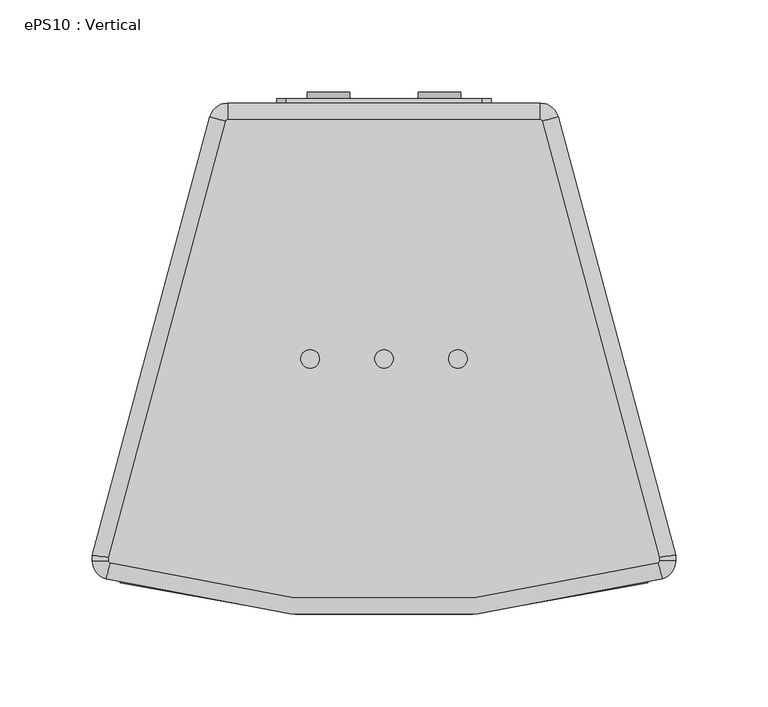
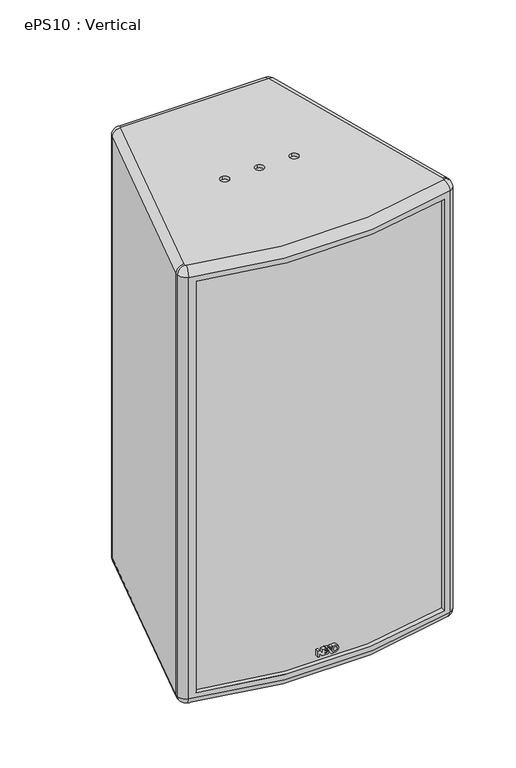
"""IFC4 building model written with IfcOpenShell, lengths in millimetres: proxy geometry, ePS10 : Vertical."""

from ifc_helpers import new_model, si_unit, point, frame, frame_2d, origin, place, context, project, spatial, polyline, circle_curve, ellipse_curve, trimmed, segment, composite_curve, outline, extrude, source, transform, mapped, element, save
from ifc_brep_helpers import plane_surface, cylinder_surface, revolved_surface, advanced_brep


def eps10_vertical_34d72fa2(model_context):
    return source(origin(), model_context, "Body", "SolidModel", [
        extrude(outline(polyline([(-236.0590531, -11.9363528), (-243.3388202, -11.9363528), (-243.3388202, -10.0439855), (-239.1734899, -10.0439855), (-243.3388202, -7.2688886), (-243.3388202, -0.4179789), (-241.463849, 0.9005934), (-239.8643156, -0.1627837), (-241.7361557, -1.5323263), (-241.7361557, -4.5659556), (-240.4818684, -4.5659556), (-240.4818684, -2.2828427), (-238.8791381, -2.2828427), (-238.8791381, -4.5659556), (-237.6626349, -4.5659556), (-237.6626349, -2.1588809), (-236.8626349, -2.1588809), (-236.0599046, -2.6925396), (-236.0599046, -6.9609157), (-240.5099607, -6.9706073), (-236.0590531, -9.9098734), (-236.0590531, -11.9363528)])), frame((0.0, -137.5, 0.0), z_axis=(0.0, 1.0, 0.0), x_axis=(0.0, 0.0, 1.0)), (0.0, 0.0, 1.0), 5.0),
        extrude(outline(polyline([(-236.0590531, -2.0512245), (-244.3, 3.4273947), (-244.3, 5.6205974), (-236.0590531, 0.1419782), (-236.0590531, -2.0512245)])), frame((0.0, -137.5, 0.0), z_axis=(0.0, 1.0, 0.0), x_axis=(0.0, 0.0, 1.0)), (0.0, 0.0, 1.0), 5.0),
        extrude(outline(polyline([(-236.0590531, 4.6894095), (-236.0590531, 2.362619), (-237.3270101, 1.6148247), (-238.957904, 2.6990504), (-236.0590531, 4.6894095)])), frame((0.0, -137.5, 0.0), z_axis=(0.0, 1.0, 0.0), x_axis=(0.0, 0.0, 1.0)), (0.0, 0.0, 1.0), 5.0),
        extrude(outline(composite_curve([segment(trimmed(circle_curve(frame_2d((-239.7298911, 8.0750207)), 3.9406238), [point((-239.7298911, 4.1343969))], [point((-239.7298911, 12.0156446))], False, "CARTESIAN"), True, "CONTINUOUS"), segment(trimmed(circle_curve(frame_2d((-239.7298911, 8.0750207)), 3.9406238), [point((-239.7298911, 12.0156446))], [point((-239.7298911, 4.1343969))], False, "CARTESIAN"), True, "CONTINUOUS")], self_intersect=False), holes=[composite_curve([segment(trimmed(circle_curve(frame_2d((-239.7298911, 8.0750207)), 2.0681078), [point((-239.7298911, 6.0069129))], [point((-239.7298911, 10.1431285))], True, "CARTESIAN"), True, "CONTINUOUS"), segment(trimmed(circle_curve(frame_2d((-239.7298911, 8.0750207)), 2.0681078), [point((-239.7298911, 10.1431285))], [point((-239.7298911, 6.0069129))], True, "CARTESIAN"), True, "CONTINUOUS")], self_intersect=False)]), frame((0.0, -137.5, 0.0), z_axis=(0.0, 1.0, 0.0), x_axis=(0.0, 0.0, 1.0)), (0.0, 0.0, 1.0), 5.0),
        extrude(outline(composite_curve([segment(trimmed(circle_curve(frame_2d((-228.0, 30.0)), 11.4515227), [point((-228.0, 41.4515227))], [point((-228.0, 18.5484773))], False, "CARTESIAN"), True, "CONTINUOUS"), segment(trimmed(circle_curve(frame_2d((-228.0, 30.0)), 11.4515227), [point((-228.0, 18.5484773))], [point((-228.0, 41.4515227))], False, "CARTESIAN"), True, "CONTINUOUS")], self_intersect=False), holes=[composite_curve([segment(trimmed(circle_curve(frame_2d((-228.0, 30.0)), 5.0), [point((-228.0, 35.0))], [point((-228.0, 25.0))], True, "CARTESIAN"), True, "CONTINUOUS"), segment(trimmed(circle_curve(frame_2d((-228.0, 30.0)), 5.0), [point((-228.0, 25.0))], [point((-228.0, 35.0))], True, "CARTESIAN"), True, "CONTINUOUS")], self_intersect=False)]), frame((0.0, 141.0947354, 0.0), z_axis=(0.0, 1.0, 0.0), x_axis=(0.0, 0.0, 1.0)), (0.0, 0.0, 1.0), 3.4052646),
        extrude(outline(composite_curve([segment(trimmed(circle_curve(frame_2d((-228.0, -30.0)), 11.4515227), [point((-228.0, -18.5484773))], [point((-228.0, -41.4515227))], False, "CARTESIAN"), True, "CONTINUOUS"), segment(trimmed(circle_curve(frame_2d((-228.0, -30.0)), 11.4515227), [point((-228.0, -41.4515227))], [point((-228.0, -18.5484773))], False, "CARTESIAN"), True, "CONTINUOUS")], self_intersect=False), holes=[composite_curve([segment(trimmed(circle_curve(frame_2d((-228.0, -30.0)), 5.0), [point((-228.0, -25.0))], [point((-228.0, -35.0))], True, "CARTESIAN"), True, "CONTINUOUS"), segment(trimmed(circle_curve(frame_2d((-228.0, -30.0)), 5.0), [point((-228.0, -35.0))], [point((-228.0, -25.0))], True, "CARTESIAN"), True, "CONTINUOUS")], self_intersect=False)]), frame((0.0, 141.0947354, 0.0), z_axis=(0.0, 1.0, 0.0), x_axis=(0.0, 0.0, 1.0)), (0.0, 0.0, 1.0), 3.4052646),
        extrude(outline(composite_curve([segment(polyline([(-209.0, 53.0), (-209.0, -53.0)]), True, "CONTINUOUS"), segment(trimmed(circle_curve(frame_2d((-214.0, -53.0)), 5.0), [point((-209.0, -53.0))], [point((-214.0, -58.0))], False, "CARTESIAN"), True, "CONTINUOUS"), segment(polyline([(-214.0, -58.0), (-242.0, -58.0)]), True, "CONTINUOUS"), segment(trimmed(circle_curve(frame_2d((-242.0, -53.0)), 5.0), [point((-242.0, -58.0))], [point((-247.0, -53.0))], False, "CARTESIAN"), True, "CONTINUOUS"), segment(polyline([(-247.0, -53.0), (-247.0, 53.0)]), True, "CONTINUOUS"), segment(trimmed(circle_curve(frame_2d((-242.0, 53.0)), 5.0), [point((-247.0, 53.0))], [point((-242.0, 58.0))], False, "CARTESIAN"), True, "CONTINUOUS"), segment(polyline([(-242.0, 58.0), (-214.0, 58.0)]), True, "CONTINUOUS"), segment(trimmed(circle_curve(frame_2d((-214.0, 53.0)), 5.0), [point((-214.0, 58.0))], [point((-209.0, 53.0))], False, "CARTESIAN"), True, "CONTINUOUS")], self_intersect=False)), frame((0.0, 138.5947354, 0.0), z_axis=(0.0, 1.0, 0.0), x_axis=(0.0, 0.0, 1.0)), (0.0, 0.0, 1.0), 2.5),
        advanced_brep(
        [(-84.6724223, 129.6030121, 265.5), (-85.6463427, 128.8556966, 265.5), (-149.0082766, -107.6142599, 265.5), (-149.0082766, -109.6140822, 265.5), (-148.2793024, -110.5829021, 265.5), (148.2793024, -110.5829021, 265.5), (149.0082766, -109.6140822, 265.5), (149.0082766, -107.6142599, 265.5), (85.6463427, 128.8556966, 265.5), (84.6724223, 129.6030121, 265.5), (0.0, -5.0, 265.5), (0.0, 5.0, 265.5), (-40.0, -5.0, 265.5), (-40.0, 5.0, 265.5), (40.0, -5.0, 265.5), (40.0, 5.0, 265.5), (84.6724223, 129.5947354, -265.5), (85.6383481, 128.8535545, -265.5), (149.0, -107.6153496, -265.5), (149.0, -109.6140822, -265.5), (148.2770097, -110.5749494, -265.5), (-148.2770097, -110.5749494, -265.5), (-149.0, -109.6140822, -265.5), (-149.0, -107.6153496, -265.5), (-85.6383481, 128.8535545, -265.5), (-84.6724223, 129.5947354, -265.5), (0.0, 5.0, -265.5), (0.0, -5.0, -265.5), (-40.0, 5.0, -265.5), (-40.0, -5.0, -265.5), (40.0, 5.0, -265.5), (40.0, -5.0, -265.5), (0.0, 5.0, 261.5), (0.0, -5.0, 261.5), (-40.0, 5.0, 261.5), (-40.0, -5.0, 261.5), (40.0, 5.0, 261.5), (40.0, -5.0, 261.5), (-143.0, -121.4005495, 250.5), (-143.0, -116.216713, 250.5), (143.0, -116.216713, 250.5), (143.0, -121.4005495, 250.5), (143.0, -121.4005495, -250.5), (143.0, -116.216713, -250.5), (-143.0, -116.216713, -250.5), (-143.0, -121.4005495, -250.5), (0.0, 5.0, -261.5), (0.0, -5.0, -261.5), (-40.0, 5.0, -261.5), (-40.0, -5.0, -261.5), (40.0, 5.0, -261.5), (40.0, -5.0, -261.5), (-29.3432823, 132.5, 0.0), (-40.6566026, 132.5, 0.0), (40.6567177, 132.5, 0.0), (29.3433974, 132.5, 0.0), (-29.3432823, 132.5, 70.0), (-40.6566026, 132.5, 70.0), (-40.6566026, 138.5947354, 0.0), (-29.3432823, 138.5947354, 0.0), (29.3433974, 138.5947354, 0.0), (40.6567177, 138.5947354, 0.0), (-84.6724223, 138.5947354, 256.5082766), (84.6724223, 138.5947354, 256.5082766), (84.6724223, 138.5947354, -256.5), (-84.6724223, 138.5947354, -256.5), (-40.6566026, 138.5947354, 70.0), (-29.3432823, 138.5947354, 70.0), (-94.3316806, 131.1829259, 256.5082766), (-94.3316806, 131.1829259, -256.5), (-158.0, -106.4304771, 256.5082766), (-158.0, -106.4304771, -256.5), (-158.0, -109.6140822, 256.5082766), (-158.0, -109.6140822, -256.5), (150.7700973, -119.2227534, 256.5082766), (-150.7700973, -119.2227534, 256.5082766), (-150.7700973, -119.2227534, -256.500006), (150.7700973, -119.2227534, -256.5), (158.0, -106.4304771, 256.5082766), (158.0, -109.6140822, 256.5082766), (158.0, -109.6140822, -256.5), (158.0, -106.4304771, -256.5), (94.3316806, 131.1829259, 256.5082766), (94.3316806, 131.1829259, -256.5)],
        [
            (0, 1, circle_curve(frame((-84.6724223, 128.5947354, 265.5), z_axis=(0.0, 0.0, 1.0), x_axis=(0.0, 1.0, 0.0)), 1.0082766)),
            (1, 2),
            (2, 3),
            (3, 4, circle_curve(frame((-148.0, -109.6140822, 265.5), z_axis=(0.0, 0.0, 1.0), x_axis=(-1.0, 0.0, 0.0)), 1.0082766)),
            (4, 5, circle_curve(frame((0.0, 403.7553714, 265.5), z_axis=(0.0, 0.0, 1.0), x_axis=(-0.2770097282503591, -0.9608671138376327, 0.0)), 535.2855417)),
            (5, 6, circle_curve(frame((148.0, -109.6140822, 265.5), z_axis=(0.0, 0.0, 1.0), x_axis=(0.2770097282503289, -0.9608671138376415, 0.0)), 1.0082766)),
            (6, 7),
            (7, 8),
            (8, 9, circle_curve(frame((84.6724223, 128.5947354, 265.5), z_axis=(0.0, 0.0, 1.0), x_axis=(0.9659258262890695, 0.2588190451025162, 0.0)), 1.0082766)),
            (9, 0),
            (10, 11, circle_curve(frame((0.0, 0.0, 265.5), z_axis=(0.0, 0.0, -1.0), x_axis=(0.0, -1.0, 0.0)), 5.0)),
            (11, 10, circle_curve(frame((0.0, 0.0, 265.5), z_axis=(0.0, 0.0, -1.0), x_axis=(0.0, -1.0, 0.0)), 5.0)),
            (12, 13, circle_curve(frame((-40.0, 0.0, 265.5), z_axis=(0.0, 0.0, -1.0), x_axis=(0.0, -1.0, 0.0)), 5.0)),
            (13, 12, circle_curve(frame((-40.0, 0.0, 265.5), z_axis=(0.0, 0.0, -1.0), x_axis=(0.0, -1.0, 0.0)), 5.0)),
            (14, 15, circle_curve(frame((40.0, 0.0, 265.5), z_axis=(0.0, 0.0, -1.0), x_axis=(0.0, -1.0, 0.0)), 5.0)),
            (15, 14, circle_curve(frame((40.0, 0.0, 265.5), z_axis=(0.0, 0.0, -1.0), x_axis=(0.0, -1.0, 0.0)), 5.0)),
            (16, 17, circle_curve(frame((84.6724223, 128.5947354, -265.5), z_axis=(0.0, 0.0, -1.0), x_axis=(0.0, 1.0, 0.0)), 1.0)),
            (17, 18),
            (18, 19),
            (19, 20, circle_curve(frame((148.0, -109.6140822, -265.5), z_axis=(0.0, 0.0, -1.0), x_axis=(1.0, 0.0, 0.0)), 1.0)),
            (20, 21, circle_curve(frame((0.0, 403.7553714, -265.5), z_axis=(0.0, 0.0, -1.0), x_axis=(0.27700972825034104, -0.9608671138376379, 0.0)), 535.277265)),
            (21, 22, circle_curve(frame((-148.0, -109.6140822, -265.5), z_axis=(0.0, 0.0, -1.0), x_axis=(-0.27700972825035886, -0.9608671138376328, 0.0)), 1.0)),
            (22, 23),
            (23, 24),
            (24, 25, circle_curve(frame((-84.6724223, 128.5947354, -265.5), z_axis=(0.0, 0.0, -1.0), x_axis=(-0.9659258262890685, 0.2588190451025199, 0.0)), 1.0)),
            (25, 16),
            (26, 27, circle_curve(frame((0.0, 0.0, -265.5), z_axis=(0.0, 0.0, 1.0), x_axis=(0.0, -1.0, 0.0)), 5.0)),
            (27, 26, circle_curve(frame((0.0, 0.0, -265.5), z_axis=(0.0, 0.0, 1.0), x_axis=(0.0, -1.0, 0.0)), 5.0)),
            (28, 29, circle_curve(frame((-40.0, 0.0, -265.5), z_axis=(0.0, 0.0, 1.0), x_axis=(0.0, -1.0, 0.0)), 5.0)),
            (29, 28, circle_curve(frame((-40.0, 0.0, -265.5), z_axis=(0.0, 0.0, 1.0), x_axis=(0.0, -1.0, 0.0)), 5.0)),
            (30, 31, circle_curve(frame((40.0, 0.0, -265.5), z_axis=(0.0, 0.0, 1.0), x_axis=(0.0, -1.0, 0.0)), 5.0)),
            (31, 30, circle_curve(frame((40.0, 0.0, -265.5), z_axis=(0.0, 0.0, 1.0), x_axis=(0.0, -1.0, 0.0)), 5.0)),
            (32, 33, circle_curve(frame((0.0, 0.0, 261.5), z_axis=(0.0, 0.0, 1.0), x_axis=(0.0, -1.0, 0.0)), 5.0)),
            (33, 32, circle_curve(frame((0.0, 0.0, 261.5), z_axis=(0.0, 0.0, 1.0), x_axis=(0.0, -1.0, 0.0)), 5.0)),
            (34, 35, circle_curve(frame((-40.0, 0.0, 261.5), z_axis=(0.0, 0.0, 1.0), x_axis=(0.0, -1.0, 0.0)), 5.0)),
            (35, 34, circle_curve(frame((-40.0, 0.0, 261.5), z_axis=(0.0, 0.0, 1.0), x_axis=(0.0, -1.0, 0.0)), 5.0)),
            (36, 37, circle_curve(frame((40.0, 0.0, 261.5), z_axis=(0.0, 0.0, 1.0), x_axis=(0.0, -1.0, 0.0)), 5.0)),
            (37, 36, circle_curve(frame((40.0, 0.0, 261.5), z_axis=(0.0, 0.0, 1.0), x_axis=(0.0, -1.0, 0.0)), 5.0)),
            (32, 11),
            (10, 33),
            (34, 13),
            (12, 35),
            (36, 15),
            (14, 37),
            (38, 39),
            (39, 40, circle_curve(frame((0.0, 403.7553714, 250.5), z_axis=(0.0, 0.0, 1.0), x_axis=(1.0, 0.0, 0.0)), 539.277265)),
            (40, 41),
            (41, 38, circle_curve(frame((0.0, 403.7553714, 250.5), z_axis=(0.0, 0.0, -1.0), x_axis=(1.0, 0.0, 0.0)), 544.277265)),
            (42, 43),
            (43, 44, circle_curve(frame((0.0, 403.7553714, -250.5), z_axis=(0.0, 0.0, -1.0), x_axis=(1.0, 0.0, 0.0)), 539.277265)),
            (44, 45),
            (45, 42, circle_curve(frame((0.0, 403.7553714, -250.5), z_axis=(0.0, 0.0, 1.0), x_axis=(1.0, 0.0, 0.0)), 544.277265)),
            (46, 47, circle_curve(frame((0.0, 0.0, -261.5), z_axis=(0.0, 0.0, -1.0), x_axis=(0.0, -1.0, 0.0)), 5.0)),
            (47, 46, circle_curve(frame((0.0, 0.0, -261.5), z_axis=(0.0, 0.0, -1.0), x_axis=(0.0, -1.0, 0.0)), 5.0)),
            (48, 49, circle_curve(frame((-40.0, 0.0, -261.5), z_axis=(0.0, 0.0, -1.0), x_axis=(0.0, -1.0, 0.0)), 5.0)),
            (49, 48, circle_curve(frame((-40.0, 0.0, -261.5), z_axis=(0.0, 0.0, -1.0), x_axis=(0.0, -1.0, 0.0)), 5.0)),
            (50, 51, circle_curve(frame((40.0, 0.0, -261.5), z_axis=(0.0, 0.0, -1.0), x_axis=(0.0, -1.0, 0.0)), 5.0)),
            (51, 50, circle_curve(frame((40.0, 0.0, -261.5), z_axis=(0.0, 0.0, -1.0), x_axis=(0.0, -1.0, 0.0)), 5.0)),
            (47, 27),
            (26, 46),
            (49, 29),
            (28, 48),
            (51, 31),
            (30, 50),
            (52, 53, circle_curve(frame((-34.9999424, 132.5, 0.0), z_axis=(0.0, 1.0, 0.0), x_axis=(-1.0, 0.0, 0.0)), 5.6566602)),
            (53, 52, circle_curve(frame((-34.9999424, 132.5, 0.0), z_axis=(0.0, 1.0, 0.0), x_axis=(-1.0, 0.0, 0.0)), 5.6566602)),
            (54, 55, circle_curve(frame((35.0000576, 132.5, 0.0), z_axis=(0.0, 1.0, 0.0), x_axis=(-1.0, 0.0, 0.0)), 5.6566602)),
            (55, 54, circle_curve(frame((35.0000576, 132.5, 0.0), z_axis=(0.0, 1.0, 0.0), x_axis=(-1.0, 0.0, 0.0)), 5.6566602)),
            (56, 57, circle_curve(frame((-34.9999424, 132.5, 70.0), z_axis=(0.0, 1.0, 0.0), x_axis=(-1.0, 0.0, 0.0)), 5.6566602)),
            (57, 56, circle_curve(frame((-34.9999424, 132.5, 70.0), z_axis=(0.0, 1.0, 0.0), x_axis=(-1.0, 0.0, 0.0)), 5.6566602)),
            (53, 58),
            (58, 59, circle_curve(frame((-34.9999424, 138.5947354, 0.0), z_axis=(0.0, 1.0, 0.0), x_axis=(-1.0, 0.0, 0.0)), 5.6566602)),
            (59, 52),
            (59, 58, circle_curve(frame((-34.9999424, 138.5947354, 0.0), z_axis=(0.0, 1.0, 0.0), x_axis=(-1.0, 0.0, 0.0)), 5.6566602)),
            (55, 60),
            (60, 61, circle_curve(frame((35.0000576, 138.5947354, 0.0), z_axis=(0.0, 1.0, 0.0), x_axis=(-1.0, 0.0, 0.0)), 5.6566602)),
            (61, 54),
            (61, 60, circle_curve(frame((35.0000576, 138.5947354, 0.0), z_axis=(0.0, 1.0, 0.0), x_axis=(-1.0, 0.0, 0.0)), 5.6566602)),
            (62, 63),
            (63, 64),
            (64, 65),
            (65, 62),
            (66, 67, circle_curve(frame((-34.9999424, 138.5947354, 70.0), z_axis=(0.0, -1.0, 0.0), x_axis=(-1.0, 0.0, 0.0)), 5.6566602)),
            (67, 66, circle_curve(frame((-34.9999424, 138.5947354, 70.0), z_axis=(0.0, -1.0, 0.0), x_axis=(-1.0, 0.0, 0.0)), 5.6566602)),
            (68, 62, circle_curve(frame((-84.6724223, 128.5947354, 256.5082766), z_axis=(0.0, 0.0, -1.0), x_axis=(1.0, 0.0, 0.0)), 10.0)),
            (65, 69, circle_curve(frame((-84.6724223, 128.5947354, -256.5), z_axis=(0.0, 0.0, 1.0), x_axis=(1.0, 0.0, 0.0)), 10.0)),
            (69, 68),
            (70, 68),
            (69, 71),
            (71, 70),
            (72, 70),
            (71, 73),
            (73, 72),
            (74, 75, circle_curve(frame((0.0, 403.7553714, 256.5082766), z_axis=(0.0, 0.0, -1.0), x_axis=(1.0, 0.0, 0.0)), 544.277265)),
            (75, 76),
            (76, 77, circle_curve(frame((0.0, 403.7553714, -256.5), z_axis=(0.0, 0.0, 1.0), x_axis=(1.0, 0.0, 0.0)), 544.277265)),
            (77, 74),
            (41, 42),
            (45, 38),
            (78, 79),
            (79, 80),
            (80, 81),
            (81, 78),
            (82, 78),
            (81, 83),
            (83, 82),
            (63, 82, circle_curve(frame((84.6724223, 128.5947354, 256.5082766), z_axis=(0.0, 0.0, -1.0), x_axis=(1.0, 0.0, 0.0)), 10.0)),
            (83, 64, circle_curve(frame((84.6724223, 128.5947354, -256.5), z_axis=(0.0, 0.0, 1.0), x_axis=(1.0, 0.0, 0.0)), 10.0)),
            (75, 72, circle_curve(frame((-148.0, -109.6140822, 256.5082766), z_axis=(0.0, 0.0, -1.0), x_axis=(1.0, 0.0, 0.0)), 10.0)),
            (73, 76, circle_curve(frame((-148.0, -109.6140822, -256.5), z_axis=(0.0, 0.0, 1.0), x_axis=(1.0, 0.0, 0.0)), 10.0)),
            (79, 74, circle_curve(frame((148.0, -109.6140822, 256.5082766), z_axis=(0.0, 0.0, -1.0), x_axis=(1.0, 0.0, 0.0)), 10.0)),
            (77, 80, circle_curve(frame((148.0, -109.6140822, -256.5), z_axis=(0.0, 0.0, 1.0), x_axis=(1.0, 0.0, 0.0)), 10.0)),
            (56, 67),
            (66, 57),
            (40, 43),
            (39, 44),
            (68, 1, circle_curve(frame((-85.6463427, 128.8556966, 256.5082766), z_axis=(0.2588190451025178, 0.9659258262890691, 0.0), x_axis=(0.9659258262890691, -0.2588190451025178, 0.0)), 8.9917234)),
            (0, 62, circle_curve(frame((-84.6724223, 129.6030121, 256.5082766), z_axis=(-1.0, 0.0, 0.0), x_axis=(0.0, -1.0, 0.0)), 8.9917234)),
            (70, 2, ellipse_curve(frame((-149.0082766, -107.6142599, 256.5082766), z_axis=(0.13052619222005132, 0.9914448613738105, 0.0), x_axis=(-0.9914448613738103, 0.13052619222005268, 0.0)), 9.0693126, 8.9917234)),
            (72, 3, circle_curve(frame((-149.0082766, -109.6140822, 256.5082766), z_axis=(0.0, 1.0, 0.0), x_axis=(1.0, 0.0, 0.0)), 8.9917234)),
            (75, 4, circle_curve(frame((-148.2793024, -110.5829021, 256.5082766), z_axis=(-0.9608671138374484, 0.2770097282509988, 0.0), x_axis=(0.2770097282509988, 0.9608671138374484, 0.0)), 8.9917234)),
            (74, 5, circle_curve(frame((148.2793024, -110.5829021, 256.5082766), z_axis=(-0.9608671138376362, -0.27700972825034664, 0.0), x_axis=(-0.27700972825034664, 0.9608671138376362, 0.0)), 8.9917234)),
            (79, 6, circle_curve(frame((149.0082766, -109.6140822, 256.5082766), z_axis=(0.0, -1.0, 0.0), x_axis=(-1.0, 0.0, 0.0)), 8.9917234)),
            (78, 7, ellipse_curve(frame((149.0082766, -107.6142599, 256.5082766), z_axis=(0.1305261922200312, -0.991444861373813, 0.0), x_axis=(0.991444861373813, 0.13052619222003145, 0.0)), 9.0693126, 8.9917234)),
            (82, 8, circle_curve(frame((85.6463427, 128.8556966, 256.5082766), z_axis=(0.2588190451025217, -0.9659258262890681, 0.0), x_axis=(-0.9659258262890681, -0.2588190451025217, 0.0)), 8.9917234)),
            (63, 9, circle_curve(frame((84.6724223, 129.6030121, 256.5082766), z_axis=(1.0, 0.0, 0.0), x_axis=(0.0, -1.0, 0.0)), 8.9917234)),
            (83, 17, circle_curve(frame((85.6383481, 128.8535545, -256.5), z_axis=(-0.2588190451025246, 0.9659258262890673, 0.0), x_axis=(-0.9659258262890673, -0.2588190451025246, 0.0)), 9.0)),
            (16, 64, circle_curve(frame((84.6724223, 129.5947354, -256.5), z_axis=(1.0, 0.0, 0.0), x_axis=(0.0, -1.0, 0.0)), 9.0)),
            (81, 18, ellipse_curve(frame((149.0, -107.6153496, -256.5), z_axis=(-0.1305261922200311, 0.991444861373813, 0.0), x_axis=(0.991444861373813, 0.1305261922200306, 0.0)), 9.0776606, 9.0)),
            (80, 19, circle_curve(frame((149.0, -109.6140822, -256.5), z_axis=(0.0, 1.0, 0.0), x_axis=(-1.0, 0.0, 0.0)), 9.0)),
            (77, 20, circle_curve(frame((148.2770097, -110.5749494, -256.5), z_axis=(0.9608671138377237, 0.27700972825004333, 0.0), x_axis=(-0.27700972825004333, 0.9608671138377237, 0.0)), 9.0)),
            (76, 21, circle_curve(frame((-148.2770097, -110.5749494, -256.5), z_axis=(0.9608671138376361, -0.277009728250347, 0.0), x_axis=(0.277009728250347, 0.9608671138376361, 0.0)), 9.0)),
            (73, 22, circle_curve(frame((-149.0, -109.6140822, -256.5), z_axis=(0.0, -1.0, 0.0), x_axis=(1.0, 0.0, 0.0)), 9.0)),
            (71, 23, ellipse_curve(frame((-149.0, -107.6153496, -256.5), z_axis=(-0.13052619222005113, -0.9914448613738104, 0.0), x_axis=(-0.9914448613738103, 0.13052619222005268, 0.0)), 9.0776606, 9.0)),
            (69, 24, circle_curve(frame((-85.6383481, 128.8535545, -256.5), z_axis=(-0.2588190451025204, -0.9659258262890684, 0.0), x_axis=(0.9659258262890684, -0.2588190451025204, 0.0)), 9.0)),
            (65, 25, circle_curve(frame((-84.6724223, 129.5947354, -256.5), z_axis=(-1.0000000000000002, 0.0, 0.0), x_axis=(0.0, -1.0000000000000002, 0.0)), 9.0)),
        ],
        [
            plane_surface(frame((-85.0560858, 138.5947354, 265.5), z_axis=(0.0, 0.0, 1.0), x_axis=(-1.0, 0.0, 0.0))),
            plane_surface(frame((-85.0560858, 138.5947354, -265.5), z_axis=(0.0, 0.0, -1.0), x_axis=(1.0, 0.0, 0.0))),
            plane_surface(frame((0.0, -5.0, 261.5), z_axis=(0.0, 0.0, 1.0), x_axis=(-1.0, 0.0, 0.0))),
            revolved_surface(polyline([(0.0, -5.0, 265.5), (0.0, -5.0, 261.5)]), (0.0, 0.0, 261.5), (0.0, 0.0, 1.0)),
            revolved_surface(polyline([(-40.0, -5.0, 265.5), (-40.0, -5.0, 261.5)]), (-40.0, 0.0, 265.5), (0.0, 0.0, 1.0)),
            revolved_surface(polyline([(40.0, -5.0, 265.5), (40.0, -5.0, 261.5)]), (40.0, 0.0, 265.5), (0.0, 0.0, 1.0)),
            plane_surface(frame((143.0, -186.7599178, 250.5), z_axis=(0.0, 0.0, -1.0), x_axis=(0.0, 1.0, 0.0))),
            plane_surface(frame((143.0, -186.7599178, -250.5), z_axis=(0.0, 0.0, 1.0), x_axis=(0.0, -1.0, 0.0))),
            plane_surface(frame((0.0, -5.0, -261.5), z_axis=(0.0, 0.0, -1.0), x_axis=(1.0, 0.0, 0.0))),
            revolved_surface(polyline([(0.0, -5.0, -261.5), (0.0, -5.0, -265.5)]), (0.0, 0.0, -269.5), (0.0, 0.0, 1.0)),
            revolved_surface(polyline([(-40.0, -5.0, -261.5), (-40.0, -5.0, -265.5)]), (-40.0, 0.0, -265.5), (0.0, 0.0, 1.0)),
            revolved_surface(polyline([(40.0, -5.0, -261.5), (40.0, -5.0, -265.5)]), (40.0, 0.0, -265.5), (0.0, 0.0, 1.0)),
            plane_surface(frame((-40.6566026, 132.5, 0.0), z_axis=(0.0, 1.0, 0.0), x_axis=(0.0, 0.0, -1.0))),
            revolved_surface(polyline([(-40.6566026, 138.5947354, 0.0), (-40.6566026, 132.5, 0.0)]), (-34.9999424, 132.5, 0.0), (0.0, 1.0, 0.0)),
            revolved_surface(polyline([(29.343397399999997, 138.5947354, 0.0), (29.343397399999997, 132.5, 0.0)]), (35.0000576, 144.5, 0.0), (0.0, 1.0, 0.0)),
            plane_surface(frame((84.6724223, 138.5947354, 265.5), z_axis=(0.0, 1.0, 0.0), x_axis=(0.0, 0.0, -1.0))),
            cylinder_surface(frame((-84.6724223, 128.5947354, -265.5), z_axis=(0.0, 0.0, 1.0), x_axis=(1.0, 0.0, 0.0)), 10.0),
            plane_surface(frame((-94.3316806, 131.1829259, 265.5), z_axis=(-0.9659258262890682, 0.2588190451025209, 0.0), x_axis=(0.0, 0.0, -1.0))),
            plane_surface(frame((-158.0, -106.4304771, 265.5), z_axis=(-1.0, 0.0, 0.0), x_axis=(0.0, 0.0, -1.0))),
            cylinder_surface(frame((0.0, 403.7553714, -265.5), z_axis=(0.0, 0.0, 1.0), x_axis=(1.0, 0.0, 0.0)), 544.277265),
            plane_surface(frame((158.0, -109.6140822, 265.5), z_axis=(1.0, 0.0, 0.0), x_axis=(0.0, 0.0, -1.0))),
            plane_surface(frame((158.0, -106.4304771, 265.5), z_axis=(0.9659258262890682, 0.25881904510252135, 0.0), x_axis=(0.0, 0.0, -1.0))),
            cylinder_surface(frame((84.6724223, 128.5947354, -265.5), z_axis=(0.0, 0.0, 1.0), x_axis=(1.0, 0.0, 0.0)), 10.0),
            cylinder_surface(frame((-148.0, -109.6140822, -265.5), z_axis=(0.0, 0.0, 1.0), x_axis=(1.0, 0.0, 0.0)), 10.0),
            cylinder_surface(frame((148.0, -109.6140822, -265.5), z_axis=(0.0, 0.0, 1.0), x_axis=(1.0, 0.0, 0.0)), 10.0),
            revolved_surface(polyline([(-40.6566026, 138.5947354, 70.0), (-40.6566026, 132.5, 70.0)]), (-34.9999424, 144.5, 70.0), (0.0, 1.0, 0.0)),
            plane_surface(frame((143.0, -121.4005495, 250.5), z_axis=(-1.0, 0.0, 0.0), x_axis=(0.0, 0.0, -1.0))),
            cylinder_surface(frame((0.0, 403.7553714, -250.5), z_axis=(0.0, 0.0, -1.0), x_axis=(1.0, 0.0, 0.0)), 539.277265),
            plane_surface(frame((-143.0, -116.216713, 250.5), z_axis=(1.0, 0.0, 0.0), x_axis=(0.0, 0.0, -1.0))),
            revolved_surface(trimmed(ellipse_curve(frame((-84.6724223, 129.6030121, 256.5082766), z_axis=(1.0, 0.0, 0.0), x_axis=(0.0, -1.0, 0.0)), 8.9917234, 8.9917234), [point((-84.6724223, 138.5947354, 256.5082766))], [point((-84.6724223, 129.6030121, 265.5))], True, "CARTESIAN"), (-84.6724223, 128.5947354, 265.5), (0.0, 0.0, 1.0)),
            cylinder_surface(frame((-85.6463427, 128.8556966, 256.5082766), z_axis=(-0.2588190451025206, -0.9659258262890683, 0.0), x_axis=(0.9659258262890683, -0.2588190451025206, 0.0)), 8.9917234),
            cylinder_surface(frame((-149.0082766, -106.4304771, 256.5082766), z_axis=(0.0, -1.0, 0.0), x_axis=(1.0, 0.0, 0.0)), 8.9917234),
            revolved_surface(trimmed(ellipse_curve(frame((-149.0082766, -109.6140822, 256.5082766), z_axis=(0.0, 1.0, 0.0), x_axis=(1.0, 0.0, 0.0)), 8.9917234, 8.9917234), [point((-158.0, -109.6140822, 256.5082766))], [point((-149.0082766, -109.6140822, 265.5))], True, "CARTESIAN"), (-148.0, -109.6140822, 265.5), (0.0, 0.0, 1.0)),
            revolved_surface(trimmed(ellipse_curve(frame((-148.2793024, -110.5829021, 256.5082766), z_axis=(-0.9608671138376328, 0.2770097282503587, 0.0), x_axis=(0.2770097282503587, 0.9608671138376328, 0.0)), 8.9917234, 8.9917234), [point((-150.7700973, -119.2227534, 256.5082766))], [point((-148.2793024, -110.5829021, 265.5))], True, "CARTESIAN"), (0.0, 403.7553714, 265.5), (0.0, 0.0, 1.0)),
            revolved_surface(trimmed(ellipse_curve(frame((148.2793024, -110.5829021, 256.5082766), z_axis=(-0.9608671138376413, -0.2770097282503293, 0.0), x_axis=(-0.2770097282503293, 0.9608671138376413, 0.0)), 8.9917234, 8.9917234), [point((150.7700973, -119.2227534, 256.5082766))], [point((148.2793024, -110.5829021, 265.5))], True, "CARTESIAN"), (148.0, -109.6140822, 265.5), (0.0, 0.0, 1.0)),
            cylinder_surface(frame((149.0082766, -109.6140822, 256.5082766), z_axis=(0.0, 1.0, 0.0), x_axis=(-1.0, 0.0, 0.0)), 8.9917234),
            cylinder_surface(frame((149.3146622, -108.7577064, 256.5082766), z_axis=(-0.2588190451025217, 0.9659258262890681, 0.0), x_axis=(-0.9659258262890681, -0.2588190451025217, 0.0)), 8.9917234),
            revolved_surface(trimmed(ellipse_curve(frame((85.6463427, 128.8556966, 256.5082766), z_axis=(0.2588190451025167, -0.9659258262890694, 0.0), x_axis=(-0.9659258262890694, -0.2588190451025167, 0.0)), 8.9917234, 8.9917234), [point((94.3316806, 131.1829259, 256.5082766))], [point((85.6463427, 128.8556966, 265.5))], True, "CARTESIAN"), (84.6724223, 128.5947354, 265.5), (0.0, 0.0, 1.0)),
            cylinder_surface(frame((84.6724223, 129.6030121, 256.5082766), z_axis=(-1.0, 0.0, 0.0), x_axis=(0.0, -1.0, 0.0)), 8.9917234),
            revolved_surface(trimmed(ellipse_curve(frame((84.6724223, 129.5947354, -256.5), z_axis=(-1.0, 0.0, 0.0), x_axis=(0.0, -1.0, 0.0)), 9.0, 9.0), [point((84.6724223, 138.5947354, -256.5))], [point((84.6724223, 129.5947354, -265.5))], True, "CARTESIAN"), (84.6724223, 128.5947354, -265.5), (0.0, 0.0, -1.0)),
            cylinder_surface(frame((85.6383481, 128.8535545, -256.5), z_axis=(0.25881904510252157, -0.9659258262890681, 0.0), x_axis=(-0.9659258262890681, -0.25881904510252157, 0.0)), 9.0),
            cylinder_surface(frame((149.0, -106.4304771, -256.5), z_axis=(0.0, -1.0, 0.0), x_axis=(-1.0, 0.0, 0.0)), 9.0),
            revolved_surface(trimmed(ellipse_curve(frame((149.0, -109.6140822, -256.5), z_axis=(0.0, 1.0, 0.0), x_axis=(-1.0, 0.0, 0.0)), 9.0, 9.0), [point((158.0, -109.6140822, -256.5))], [point((149.0, -109.6140822, -265.5))], True, "CARTESIAN"), (148.0, -109.6140822, -265.5), (0.0, 0.0, -1.0)),
            revolved_surface(trimmed(ellipse_curve(frame((148.2770097, -110.5749494, -256.5), z_axis=(0.9608671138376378, 0.2770097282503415, 0.0), x_axis=(-0.2770097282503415, 0.9608671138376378, 0.0)), 9.0, 9.0), [point((150.7700973, -119.2227534, -256.5))], [point((148.2770097, -110.5749494, -265.5))], True, "CARTESIAN"), (0.0, 403.7553714, -265.5), (0.0, 0.0, -1.0)),
            revolved_surface(trimmed(ellipse_curve(frame((-148.2770097, -110.5749494, -256.5), z_axis=(0.960867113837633, -0.2770097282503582, 0.0), x_axis=(0.2770097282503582, 0.960867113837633, 0.0)), 9.0, 9.0), [point((-150.7700973, -119.2227534, -256.5))], [point((-148.2770097, -110.5749494, -265.5))], True, "CARTESIAN"), (-148.0, -109.6140822, -265.5), (0.0, 0.0, -1.0)),
            cylinder_surface(frame((-149.0, -109.6140822, -256.5), z_axis=(0.0, 1.0, 0.0), x_axis=(1.0, 0.0, 0.0)), 9.0),
            cylinder_surface(frame((-149.3066676, -108.7598485, -256.5), z_axis=(0.2588190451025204, 0.9659258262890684, 0.0), x_axis=(0.9659258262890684, -0.2588190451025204, 0.0)), 9.0),
            revolved_surface(trimmed(ellipse_curve(frame((-85.6383481, 128.8535545, -256.5), z_axis=(-0.2588190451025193, -0.9659258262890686, 0.0), x_axis=(0.9659258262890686, -0.2588190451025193, 0.0)), 9.0, 9.0), [point((-94.3316806, 131.1829259, -256.5))], [point((-85.6383481, 128.8535545, -265.5))], True, "CARTESIAN"), (-84.6724223, 128.5947354, -265.5), (0.0, 0.0, -1.0)),
            cylinder_surface(frame((-84.6724223, 129.5947354, -256.5), z_axis=(1.0, 0.0, 0.0), x_axis=(0.0, -1.0, 0.0)), 9.0),
        ],
        [
            (0, [[1, 2, 3, 4, 5, 6, 7, 8, 9, 10], [11, 12], [13, 14], [15, 16]]),
            (1, [[17, 18, 19, 20, 21, 22, 23, 24, 25, 26], [27, 28], [29, 30], [31, 32]]),
            (2, [[33, 34]]),
            (2, [[35, 36]]),
            (2, [[37, 38]]),
            (3, [[-33, 39, -11, 40]]),
            (3, [[-34, -40, -12, -39]]),
            (4, [[-35, 41, -13, 42]]),
            (4, [[-36, -42, -14, -41]]),
            (5, [[-37, 43, -15, 44]]),
            (5, [[-38, -44, -16, -43]]),
            (6, [[45, 46, 47, 48]]),
            (7, [[49, 50, 51, 52]]),
            (8, [[53, 54]]),
            (8, [[55, 56]]),
            (8, [[57, 58]]),
            (9, [[-54, 59, -27, 60]]),
            (9, [[-53, -60, -28, -59]]),
            (10, [[-56, 61, -29, 62]]),
            (10, [[-55, -62, -30, -61]]),
            (11, [[-58, 63, -31, 64]]),
            (11, [[-57, -64, -32, -63]]),
            (12, [[65, 66]]),
            (12, [[67, 68]]),
            (12, [[69, 70]]),
            (13, [[-66, 71, 72, 73]]),
            (13, [[-65, -73, 74, -71]]),
            (14, [[-68, 75, 76, 77]]),
            (14, [[-67, -77, 78, -75]]),
            (15, [[79, 80, 81, 82], [-72, -74], [-76, -78], [83, 84]]),
            (16, [[85, -82, 86, 87]]),
            (17, [[88, -87, 89, 90]]),
            (18, [[91, -90, 92, 93]]),
            (19, [[94, 95, 96, 97], [-48, 98, -52, 99]]),
            (20, [[100, 101, 102, 103]]),
            (21, [[104, -103, 105, 106]]),
            (22, [[107, -106, 108, -80]]),
            (23, [[109, -93, 110, -95]]),
            (24, [[111, -97, 112, -101]]),
            (25, [[-69, 113, -83, 114]]),
            (25, [[-70, -114, -84, -113]]),
            (26, [[-47, 115, -49, -98]]),
            (27, [[-46, 116, -50, -115]]),
            (28, [[-45, -99, -51, -116]]),
            (29, [[117, -1, 118, -85]]),
            (30, [[-117, -88, 119, -2]]),
            (31, [[-119, -91, 120, -3]]),
            (32, [[-120, -109, 121, -4]]),
            (33, [[-121, -94, 122, -5]]),
            (34, [[-122, -111, 123, -6]]),
            (35, [[-123, -100, 124, -7]]),
            (36, [[-124, -104, 125, -8]]),
            (37, [[-125, -107, 126, -9]]),
            (38, [[-118, -10, -126, -79]]),
            (39, [[127, -17, 128, -108]]),
            (40, [[-127, -105, 129, -18]]),
            (41, [[-129, -102, 130, -19]]),
            (42, [[-130, -112, 131, -20]]),
            (43, [[-131, -96, 132, -21]]),
            (44, [[-132, -110, 133, -22]]),
            (45, [[-133, -92, 134, -23]]),
            (46, [[-134, -89, 135, -24]]),
            (47, [[-135, -86, 136, -25]]),
            (48, [[-128, -26, -136, -81]]),
        ],
    ),
    ])


if __name__ == "__main__":
    model = new_model("IFC4")
    model_context = context("Model", 3, world=origin())
    ifc_project = project(units=[si_unit("LENGTHUNIT", "METRE", prefix="MILLI")], contexts=[model_context])
    site = spatial("IfcSite", under=ifc_project)
    building = spatial("IfcBuilding", under=site)
    placement = place(None, origin())
    eps10_vertical_shape = eps10_vertical_34d72fa2(model_context)
    element("IfcBuildingElementProxy", 1, Name="ePS10 : Vertical", ObjectType="ePS10 : Vertical", at=placement, inside=building, context=model_context, shape_type="MappedRepresentation", body=[
        mapped(eps10_vertical_shape, transform((0.0, 0.0, 0.0), x_axis=(1.0, 0.0, 0.0), y_axis=(0.0, 1.0, 0.0), z_axis=(0.0, 0.0, 1.0))),
    ])
    save(model, "model.ifc")
